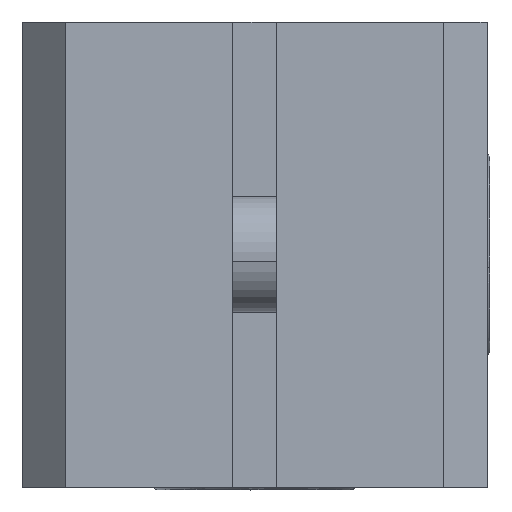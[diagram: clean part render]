
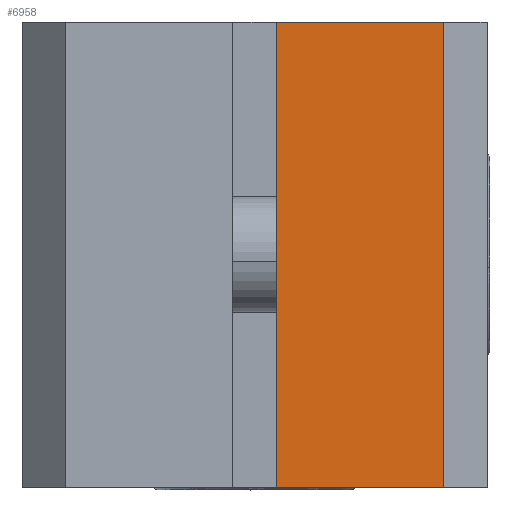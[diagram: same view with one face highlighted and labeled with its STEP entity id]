
A CAD part, left-side view. The second image highlights one B-rep face of the part: STEP entity #6958.
In plain terms, the highlighted planar face has unit normal (-1, 0, 0).
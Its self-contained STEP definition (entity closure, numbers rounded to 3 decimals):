
#593 = VECTOR ( 'NONE', #6251, 1000. ) ;
#651 = CARTESIAN_POINT ( 'NONE',  ( -61.364, 25.22, -8. ) ) ;
#1150 = ORIENTED_EDGE ( 'NONE', *, *, #11161, .T. ) ;
#2161 = VECTOR ( 'NONE', #2218, 1000. ) ;
#2218 = DIRECTION ( 'NONE',  ( 0., 1., 0. ) ) ;
#2239 = VECTOR ( 'NONE', #16695, 1000. ) ;
#2556 = DIRECTION ( 'NONE',  ( 0., 1., 0. ) ) ;
#2824 = LINE ( 'NONE', #17328, #2239 ) ;
#2854 = LINE ( 'NONE', #14952, #16316 ) ;
#3605 = DIRECTION ( 'NONE',  ( 1., 0., 0. ) ) ;
#3879 = FACE_OUTER_BOUND ( 'NONE', #6702, .T. ) ;
#5075 = EDGE_CURVE ( 'NONE', #18261, #21647, #2824, .T. ) ;
#5176 = PLANE ( 'NONE',  #18295 ) ;
#5364 = LINE ( 'NONE', #13251, #593 ) ;
#5660 = CARTESIAN_POINT ( 'NONE',  ( -61.364, 25.22, 8. ) ) ;
#6157 = EDGE_CURVE ( 'NONE', #15030, #16590, #5364, .T. ) ;
#6251 = DIRECTION ( 'NONE',  ( 0., 0., 1. ) ) ;
#6464 = ORIENTED_EDGE ( 'NONE', *, *, #7383, .F. ) ;
#6702 = EDGE_LOOP ( 'NONE', ( #1150, #10138, #6464, #20432 ) ) ;
#6884 = LINE ( 'NONE', #16215, #2161 ) ;
#6958 = ADVANCED_FACE ( 'NONE', ( #3879 ), #5176, .F. ) ;
#7383 = EDGE_CURVE ( 'NONE', #18261, #15030, #6884, .T. ) ;
#8125 = CARTESIAN_POINT ( 'NONE',  ( -61.364, 30.97, 8. ) ) ;
#10138 = ORIENTED_EDGE ( 'NONE', *, *, #6157, .F. ) ;
#11161 = EDGE_CURVE ( 'NONE', #21647, #16590, #2854, .T. ) ;
#13251 = CARTESIAN_POINT ( 'NONE',  ( -61.364, 30.97, 0. ) ) ;
#14142 = CARTESIAN_POINT ( 'NONE',  ( -61.364, 25.22, 8. ) ) ;
#14952 = CARTESIAN_POINT ( 'NONE',  ( -61.364, 31.72, 8. ) ) ;
#15030 = VERTEX_POINT ( 'NONE', #20488 ) ;
#15889 = DIRECTION ( 'NONE',  ( 0., 0., -1. ) ) ;
#16215 = CARTESIAN_POINT ( 'NONE',  ( -61.364, 31.72, -8. ) ) ;
#16316 = VECTOR ( 'NONE', #2556, 1000. ) ;
#16590 = VERTEX_POINT ( 'NONE', #8125 ) ;
#16695 = DIRECTION ( 'NONE',  ( 0., 0., 1. ) ) ;
#17328 = CARTESIAN_POINT ( 'NONE',  ( -61.364, 25.22, 0. ) ) ;
#18261 = VERTEX_POINT ( 'NONE', #651 ) ;
#18295 = AXIS2_PLACEMENT_3D ( 'NONE', #14142, #3605, #15889 ) ;
#20432 = ORIENTED_EDGE ( 'NONE', *, *, #5075, .T. ) ;
#20488 = CARTESIAN_POINT ( 'NONE',  ( -61.364, 30.97, -8. ) ) ;
#21647 = VERTEX_POINT ( 'NONE', #5660 ) ;
